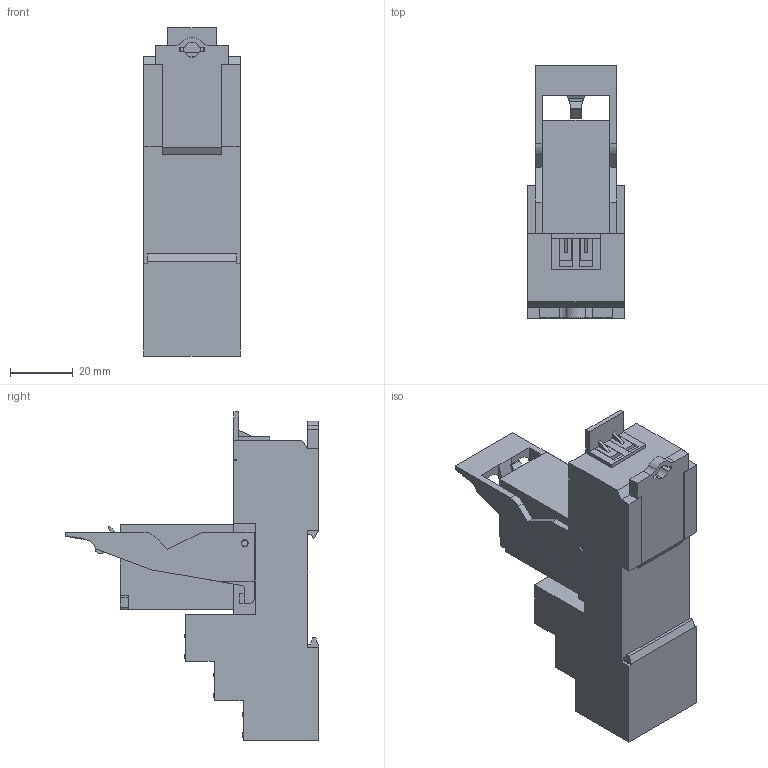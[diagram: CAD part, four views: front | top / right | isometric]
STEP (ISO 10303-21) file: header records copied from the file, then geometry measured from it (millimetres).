
FILE_DESCRIPTION (( 'STEP AP203' ), '1' );
FILE_NAME ('PRT55M - PRYM.STEP', '2019-03-27T12:52:49', ( '' ), ( '' ), 'SwSTEP 2.0', 'SolidWorks 2012', '' );
FILE_SCHEMA (( 'CONFIG_CONTROL_DESIGN' ));
Products named in the file (1): PRT55M - PRYM
Bounding box: 30.55 x 80.5 x 104.3 mm (x, y, z)
Volume: 101383.5 mm3; surface area: 26919.9 mm2
Topology: 1 solids, 1 shells, 1203 faces, 3246 edges, 2160 vertices
Faces by surface type: plane 914, bspline 233, cylinder 56
Entity records: 50619 total; most frequent: CARTESIAN_POINT 21799, ORIENTED_EDGE 6492, DIRECTION 4814, EDGE_CURVE 3246, VECTOR 2664, LINE 2664, VERTEX_POINT 2160, EDGE_LOOP 1322
